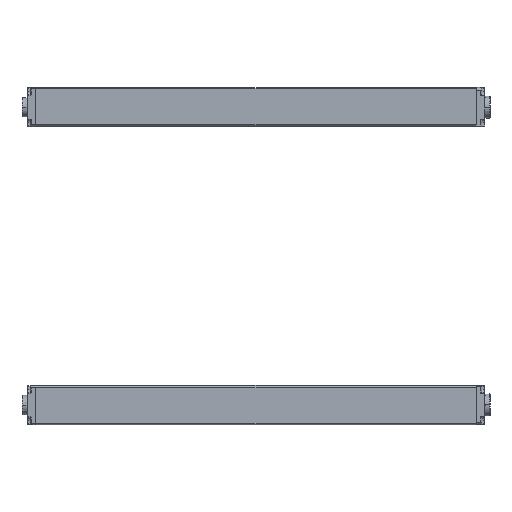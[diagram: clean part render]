
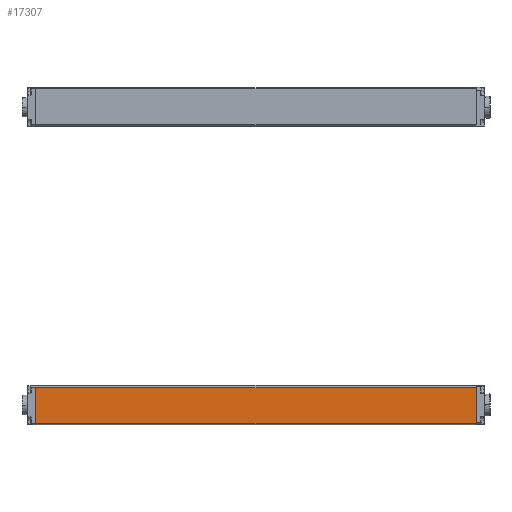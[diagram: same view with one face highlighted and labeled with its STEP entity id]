
A CAD part, left-side view. The second image highlights one B-rep face of the part: STEP entity #17307.
In plain terms, the highlighted planar face has unit normal (-1, 0, -0.009) as drawn and (1, 0, 0) by its records, which use the part's own axes.
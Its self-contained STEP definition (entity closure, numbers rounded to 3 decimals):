
#93 = LINE ( 'NONE', #5639, #4215 ) ;
#364 = VECTOR ( 'NONE', #12618, 1000. ) ;
#497 = VERTEX_POINT ( 'NONE', #17777 ) ;
#855 = DIRECTION ( 'NONE',  ( 0., -1., 0. ) ) ;
#1400 = DIRECTION ( 'NONE',  ( -1., 0., 0. ) ) ;
#1513 = LINE ( 'NONE', #7060, #364 ) ;
#1630 = VECTOR ( 'NONE', #855, 1000. ) ;
#2762 = FACE_OUTER_BOUND ( 'NONE', #16954, .T. ) ;
#3328 = LINE ( 'NONE', #8892, #6459 ) ;
#3611 = ORIENTED_EDGE ( 'NONE', *, *, #10180, .T. ) ;
#3717 = EDGE_CURVE ( 'NONE', #497, #9542, #1513, .T. ) ;
#3941 = EDGE_CURVE ( 'NONE', #9958, #9542, #3328, .T. ) ;
#4215 = VECTOR ( 'NONE', #11209, 1000. ) ;
#5639 = CARTESIAN_POINT ( 'NONE',  ( 15., 0., -16.9 ) ) ;
#5864 = CARTESIAN_POINT ( 'NONE',  ( 15., 340., 10.9 ) ) ;
#6459 = VECTOR ( 'NONE', #14456, 1000. ) ;
#6945 = DIRECTION ( 'NONE',  ( 0., 0., 1. ) ) ;
#7060 = CARTESIAN_POINT ( 'NONE',  ( 15., 340., -16.693 ) ) ;
#7777 = LINE ( 'NONE', #13334, #1630 ) ;
#7914 = ORIENTED_EDGE ( 'NONE', *, *, #3941, .F. ) ;
#8321 = PLANE ( 'NONE',  #15984 ) ;
#8562 = CARTESIAN_POINT ( 'NONE',  ( 15., 340., -16.693 ) ) ;
#8892 = CARTESIAN_POINT ( 'NONE',  ( 15., 340., -16.9 ) ) ;
#8919 = ORIENTED_EDGE ( 'NONE', *, *, #10762, .T. ) ;
#9542 = VERTEX_POINT ( 'NONE', #8562 ) ;
#9764 = VERTEX_POINT ( 'NONE', #14888 ) ;
#9958 = VERTEX_POINT ( 'NONE', #5864 ) ;
#10180 = EDGE_CURVE ( 'NONE', #9764, #497, #93, .T. ) ;
#10762 = EDGE_CURVE ( 'NONE', #9958, #9764, #7777, .T. ) ;
#11209 = DIRECTION ( 'NONE',  ( 0., 0., -1. ) ) ;
#12618 = DIRECTION ( 'NONE',  ( 0., 1., 0. ) ) ;
#13334 = CARTESIAN_POINT ( 'NONE',  ( 15., 340., 10.9 ) ) ;
#13881 = CARTESIAN_POINT ( 'NONE',  ( 15., 340., -16.9 ) ) ;
#14456 = DIRECTION ( 'NONE',  ( 0., 0., -1. ) ) ;
#14888 = CARTESIAN_POINT ( 'NONE',  ( 15., 0., 10.9 ) ) ;
#14961 = ORIENTED_EDGE ( 'NONE', *, *, #3717, .T. ) ;
#15984 = AXIS2_PLACEMENT_3D ( 'NONE', #13881, #1400, #6945 ) ;
#16954 = EDGE_LOOP ( 'NONE', ( #3611, #14961, #7914, #8919 ) ) ;
#17307 = ADVANCED_FACE ( 'NONE', ( #2762 ), #8321, .F. ) ;
#17777 = CARTESIAN_POINT ( 'NONE',  ( 15., 0., -16.693 ) ) ;
